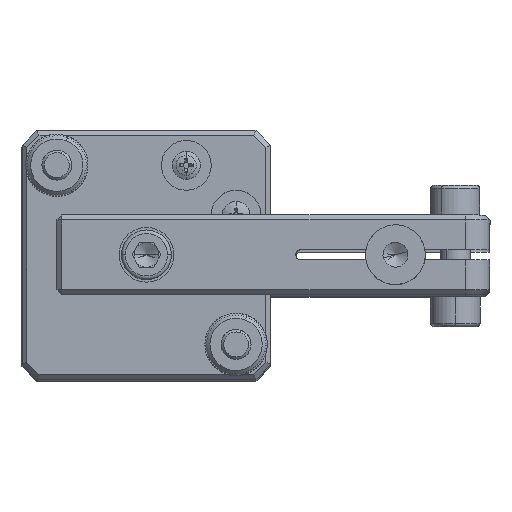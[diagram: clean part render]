
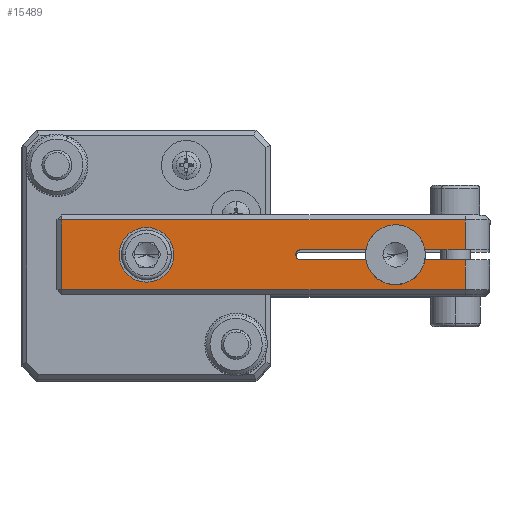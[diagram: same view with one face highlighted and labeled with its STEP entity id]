
A CAD part, top view. The second image highlights one B-rep face of the part: STEP entity #15489.
In plain terms, the highlighted planar face has unit normal (0, 0, 1) as drawn and (0, 0, -1) by its records, which use the part's own axes.
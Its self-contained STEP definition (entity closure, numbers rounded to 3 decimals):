
#557 = VERTEX_POINT ( 'NONE', #16807 ) ;
#1098 = VECTOR ( 'NONE', #3612, 1000. ) ;
#1264 = DIRECTION ( 'NONE',  ( 0., -1., 0. ) ) ;
#1677 = DIRECTION ( 'NONE',  ( 1., 0., 0. ) ) ;
#1748 = EDGE_CURVE ( 'NONE', #7737, #3387, #19088, .T. ) ;
#1848 = CARTESIAN_POINT ( 'NONE',  ( -5.5, 69., -8. ) ) ;
#1900 = DIRECTION ( 'NONE',  ( -1., 0., 0. ) ) ;
#1919 = VERTEX_POINT ( 'NONE', #13367 ) ;
#2028 = CARTESIAN_POINT ( 'NONE',  ( 0., 19., -8. ) ) ;
#2030 = AXIS2_PLACEMENT_3D ( 'NONE', #11006, #19389, #13957 ) ;
#2129 = DIRECTION ( 'NONE',  ( 0., 0., -1. ) ) ;
#2183 = DIRECTION ( 'NONE',  ( 1., 0., 0. ) ) ;
#2228 = VECTOR ( 'NONE', #20609, 1000. ) ;
#2521 = EDGE_CURVE ( 'NONE', #14053, #11092, #12945, .T. ) ;
#2867 = EDGE_CURVE ( 'NONE', #7463, #4250, #6702, .T. ) ;
#3222 = LINE ( 'NONE', #13032, #17772 ) ;
#3387 = VERTEX_POINT ( 'NONE', #3606 ) ;
#3606 = CARTESIAN_POINT ( 'NONE',  ( -1., 13.084, -8. ) ) ;
#3612 = DIRECTION ( 'NONE',  ( 0., -1., 0. ) ) ;
#3680 = VERTEX_POINT ( 'NONE', #15703 ) ;
#3748 = CIRCLE ( 'NONE', #9604, 5.5 ) ;
#3795 = DIRECTION ( 'NONE',  ( 1., 0., 0. ) ) ;
#3990 = AXIS2_PLACEMENT_3D ( 'NONE', #15684, #20967, #12540 ) ;
#4039 = AXIS2_PLACEMENT_3D ( 'NONE', #2028, #13960, #20691 ) ;
#4208 = EDGE_LOOP ( 'NONE', ( #11700, #19160, #5406, #6633, #5760, #5995, #13699, #11755, #15067, #7080, #19773, #20174, #19540 ) ) ;
#4243 = VECTOR ( 'NONE', #1677, 1000. ) ;
#4250 = VERTEX_POINT ( 'NONE', #1848 ) ;
#4315 = VERTEX_POINT ( 'NONE', #19760 ) ;
#4926 = CARTESIAN_POINT ( 'NONE',  ( -8., 87., -8. ) ) ;
#4949 = CARTESIAN_POINT ( 'NONE',  ( 1., 38., -8. ) ) ;
#5073 = AXIS2_PLACEMENT_3D ( 'NONE', #11512, #8515, #13237 ) ;
#5194 = LINE ( 'NONE', #4949, #20441 ) ;
#5253 = CARTESIAN_POINT ( 'NONE',  ( -1., 38., -8. ) ) ;
#5406 = ORIENTED_EDGE ( 'NONE', *, *, #20700, .T. ) ;
#5461 = DIRECTION ( 'NONE',  ( 0., 1., 0. ) ) ;
#5492 = DIRECTION ( 'NONE',  ( 0., 1., 0. ) ) ;
#5760 = ORIENTED_EDGE ( 'NONE', *, *, #17207, .T. ) ;
#5995 = ORIENTED_EDGE ( 'NONE', *, *, #7051, .T. ) ;
#6633 = ORIENTED_EDGE ( 'NONE', *, *, #18817, .F. ) ;
#6702 = CIRCLE ( 'NONE', #3990, 5.5 ) ;
#7051 = EDGE_CURVE ( 'NONE', #8805, #12156, #15466, .T. ) ;
#7080 = ORIENTED_EDGE ( 'NONE', *, *, #18197, .T. ) ;
#7098 = CIRCLE ( 'NONE', #4039, 6. ) ;
#7463 = VERTEX_POINT ( 'NONE', #9044 ) ;
#7737 = VERTEX_POINT ( 'NONE', #16830 ) ;
#7930 = CARTESIAN_POINT ( 'NONE',  ( 7., 86., -8. ) ) ;
#8089 = DIRECTION ( 'NONE',  ( 0., 0., 1. ) ) ;
#8210 = VECTOR ( 'NONE', #1900, 1000. ) ;
#8308 = CARTESIAN_POINT ( 'NONE',  ( -8., 86., -8. ) ) ;
#8515 = DIRECTION ( 'NONE',  ( 0., 0., 1. ) ) ;
#8516 = EDGE_CURVE ( 'NONE', #557, #17873, #11485, .T. ) ;
#8805 = VERTEX_POINT ( 'NONE', #18367 ) ;
#8809 = LINE ( 'NONE', #15169, #1098 ) ;
#9044 = CARTESIAN_POINT ( 'NONE',  ( 5.5, 69., -8. ) ) ;
#9282 = CARTESIAN_POINT ( 'NONE',  ( -7., 87., -8. ) ) ;
#9547 = CIRCLE ( 'NONE', #17441, 6. ) ;
#9604 = AXIS2_PLACEMENT_3D ( 'NONE', #10663, #2129, #15334 ) ;
#9649 = CARTESIAN_POINT ( 'NONE',  ( 1., 24.916, -8. ) ) ;
#10179 = LINE ( 'NONE', #9282, #10479 ) ;
#10479 = VECTOR ( 'NONE', #12601, 1000. ) ;
#10663 = CARTESIAN_POINT ( 'NONE',  ( 0., 69., -8. ) ) ;
#10869 = VERTEX_POINT ( 'NONE', #12080 ) ;
#11006 = CARTESIAN_POINT ( 'NONE',  ( 0., 38., -8. ) ) ;
#11092 = VERTEX_POINT ( 'NONE', #5253 ) ;
#11179 = ORIENTED_EDGE ( 'NONE', *, *, #18981, .F. ) ;
#11260 = EDGE_CURVE ( 'NONE', #4315, #12156, #5194, .T. ) ;
#11485 = LINE ( 'NONE', #8308, #4243 ) ;
#11512 = CARTESIAN_POINT ( 'NONE',  ( 0., 19., -8. ) ) ;
#11535 = FACE_BOUND ( 'NONE', #18287, .T. ) ;
#11590 = VECTOR ( 'NONE', #5492, 1000. ) ;
#11662 = EDGE_CURVE ( 'NONE', #7737, #10869, #16720, .T. ) ;
#11700 = ORIENTED_EDGE ( 'NONE', *, *, #8516, .T. ) ;
#11755 = ORIENTED_EDGE ( 'NONE', *, *, #16008, .F. ) ;
#12080 = CARTESIAN_POINT ( 'NONE',  ( -7., 5., -8. ) ) ;
#12148 = VERTEX_POINT ( 'NONE', #12832 ) ;
#12156 = VERTEX_POINT ( 'NONE', #9649 ) ;
#12210 = ORIENTED_EDGE ( 'NONE', *, *, #2867, .F. ) ;
#12540 = DIRECTION ( 'NONE',  ( -1., 0., 0. ) ) ;
#12601 = DIRECTION ( 'NONE',  ( 0., 1., 0. ) ) ;
#12832 = CARTESIAN_POINT ( 'NONE',  ( 1., 13.084, -8. ) ) ;
#12945 = LINE ( 'NONE', #20630, #13092 ) ;
#13032 = CARTESIAN_POINT ( 'NONE',  ( 1., 38., -8. ) ) ;
#13092 = VECTOR ( 'NONE', #5461, 1000. ) ;
#13237 = DIRECTION ( 'NONE',  ( 1., 0., 0. ) ) ;
#13367 = CARTESIAN_POINT ( 'NONE',  ( 7., 5., -8. ) ) ;
#13699 = ORIENTED_EDGE ( 'NONE', *, *, #11260, .F. ) ;
#13957 = DIRECTION ( 'NONE',  ( -1., 0., 0. ) ) ;
#13960 = DIRECTION ( 'NONE',  ( 0., 0., 1. ) ) ;
#14053 = VERTEX_POINT ( 'NONE', #18631 ) ;
#14254 = DIRECTION ( 'NONE',  ( 0., 0., 1. ) ) ;
#15067 = ORIENTED_EDGE ( 'NONE', *, *, #2521, .F. ) ;
#15095 = CARTESIAN_POINT ( 'NONE',  ( 1., 5., -8. ) ) ;
#15169 = CARTESIAN_POINT ( 'NONE',  ( 7., 87., -8. ) ) ;
#15265 = LINE ( 'NONE', #15095, #8210 ) ;
#15334 = DIRECTION ( 'NONE',  ( -1., 0., 0. ) ) ;
#15466 = CIRCLE ( 'NONE', #5073, 6. ) ;
#15489 = ADVANCED_FACE ( 'NONE', ( #11535, #18563 ), #19967, .F. ) ;
#15580 = DIRECTION ( 'NONE',  ( 0., -1., 0. ) ) ;
#15684 = CARTESIAN_POINT ( 'NONE',  ( 0., 69., -8. ) ) ;
#15703 = CARTESIAN_POINT ( 'NONE',  ( 1., 5., -8. ) ) ;
#15752 = CARTESIAN_POINT ( 'NONE',  ( -8., 5., -8. ) ) ;
#16008 = EDGE_CURVE ( 'NONE', #11092, #4315, #18999, .T. ) ;
#16444 = AXIS2_PLACEMENT_3D ( 'NONE', #4926, #8089, #2183 ) ;
#16720 = LINE ( 'NONE', #15752, #2228 ) ;
#16807 = CARTESIAN_POINT ( 'NONE',  ( -7., 86., -8. ) ) ;
#16830 = CARTESIAN_POINT ( 'NONE',  ( -1., 5., -8. ) ) ;
#17207 = EDGE_CURVE ( 'NONE', #12148, #8805, #7098, .T. ) ;
#17317 = CARTESIAN_POINT ( 'NONE',  ( -1., 38., -8. ) ) ;
#17441 = AXIS2_PLACEMENT_3D ( 'NONE', #20684, #14254, #3795 ) ;
#17728 = EDGE_CURVE ( 'NONE', #17873, #1919, #8809, .T. ) ;
#17772 = VECTOR ( 'NONE', #1264, 1000. ) ;
#17873 = VERTEX_POINT ( 'NONE', #7930 ) ;
#18197 = EDGE_CURVE ( 'NONE', #14053, #3387, #9547, .T. ) ;
#18287 = EDGE_LOOP ( 'NONE', ( #11179, #12210 ) ) ;
#18367 = CARTESIAN_POINT ( 'NONE',  ( 6., 19., -8. ) ) ;
#18563 = FACE_OUTER_BOUND ( 'NONE', #4208, .T. ) ;
#18631 = CARTESIAN_POINT ( 'NONE',  ( -1., 24.916, -8. ) ) ;
#18686 = EDGE_CURVE ( 'NONE', #10869, #557, #10179, .T. ) ;
#18817 = EDGE_CURVE ( 'NONE', #12148, #3680, #3222, .T. ) ;
#18981 = EDGE_CURVE ( 'NONE', #4250, #7463, #3748, .T. ) ;
#18999 = CIRCLE ( 'NONE', #2030, 1. ) ;
#19088 = LINE ( 'NONE', #17317, #11590 ) ;
#19160 = ORIENTED_EDGE ( 'NONE', *, *, #17728, .T. ) ;
#19389 = DIRECTION ( 'NONE',  ( 0., 0., -1. ) ) ;
#19540 = ORIENTED_EDGE ( 'NONE', *, *, #18686, .T. ) ;
#19760 = CARTESIAN_POINT ( 'NONE',  ( 1., 38., -8. ) ) ;
#19773 = ORIENTED_EDGE ( 'NONE', *, *, #1748, .F. ) ;
#19967 = PLANE ( 'NONE',  #16444 ) ;
#20174 = ORIENTED_EDGE ( 'NONE', *, *, #11662, .T. ) ;
#20441 = VECTOR ( 'NONE', #15580, 1000. ) ;
#20609 = DIRECTION ( 'NONE',  ( -1., 0., 0. ) ) ;
#20630 = CARTESIAN_POINT ( 'NONE',  ( -1., 38., -8. ) ) ;
#20684 = CARTESIAN_POINT ( 'NONE',  ( 0., 19., -8. ) ) ;
#20691 = DIRECTION ( 'NONE',  ( 1., 0., 0. ) ) ;
#20700 = EDGE_CURVE ( 'NONE', #1919, #3680, #15265, .T. ) ;
#20967 = DIRECTION ( 'NONE',  ( 0., 0., -1. ) ) ;
